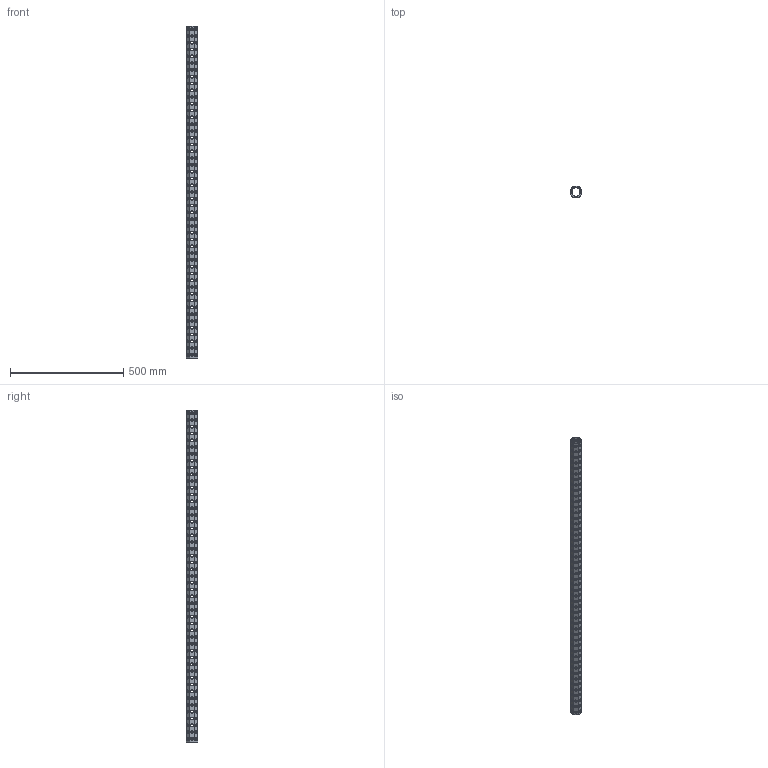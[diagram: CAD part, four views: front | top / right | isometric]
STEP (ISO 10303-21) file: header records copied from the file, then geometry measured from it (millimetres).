
FILE_DESCRIPTION(('CATIA V5 STEP Exchange'),'2;1');
FILE_NAME('U:\Room\唐宝山\EGT002\46-01-010278-01-EGT002-1468.stp','2021-08-24T01:26:34+00:00',('none'),('none'),'CATIA Version 5 Release 21 GA (IN-10)','CATIA V5 STEP AP203','none');
FILE_SCHEMA(('CONFIG_CONTROL_DESIGN'));
Products named in the file (1): 46-01-010278-01-EGT002-1468
Bounding box: 50 x 50 x 1468 mm (x, y, z)
Volume: 1045869.8 mm3; surface area: 504706.7 mm2
Topology: 1 solids, 1 shells, 2044 faces, 5636 edges, 3496 vertices
Faces by surface type: cone 1176, cylinder 842, plane 26
Entity records: 88191 total; most frequent: CARTESIAN_POINT 39190, ORIENTED_EDGE 11272, DIRECTION 7702, EDGE_CURVE 5636, VERTEX_POINT 3496, AXIS2_PLACEMENT_3D 3471, EDGE_LOOP 2732, VECTOR 2188
